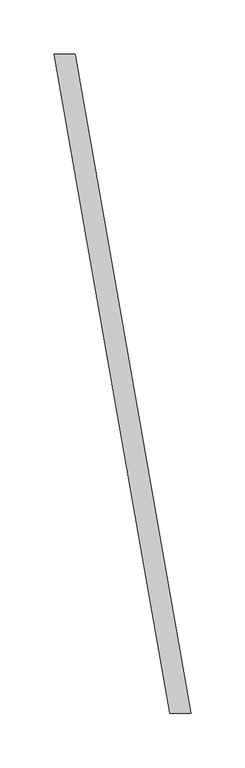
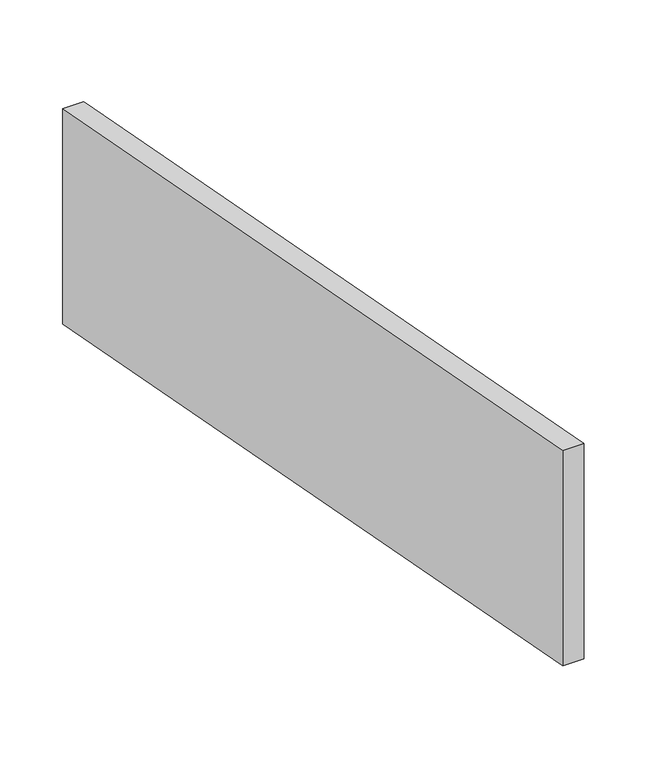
"""IFC4 building model written with IfcOpenShell, lengths in millimetres: proxy geometry, GRADIENT^TABLE 7_PYRAMID BASES-END BASE ACCESS."""

from ifc_helpers import new_model, si_unit, frame, origin, place, context, project, spatial, polyline, outline, extrude, source, transform, mapped, element, save


def generic_models_9ee26a7e(model_context):
    return source(origin(), model_context, "Body", "SweptSolid", [
        extrude(outline(polyline([(787.5671956, -101.6), (806.9110726, -101.6), (914.4, -711.2), (895.056123, -711.2), (787.5671956, -101.6)])), frame((0.0, 0.0, -866.775), z_axis=(0.0, 0.0, 1.0), x_axis=(1.0, 0.0, 0.0)), (0.0, 0.0, 1.0), 209.55),
    ])


if __name__ == "__main__":
    model = new_model("IFC4")
    model_context = context("Model", 3, world=origin())
    ifc_project = project(units=[si_unit("LENGTHUNIT", "METRE", prefix="MILLI")], contexts=[model_context])
    site = spatial("IfcSite", under=ifc_project)
    building = spatial("IfcBuilding", under=site)
    placement = place(None, origin())
    generic_models_shape = generic_models_9ee26a7e(model_context)
    element("IfcBuildingElementProxy", 1, Name="GRADIENT^TABLE 7_PYRAMID BASES-END BASE ACCESS", ObjectType="GRADIENT^TABLE 7_PYRAMID BASES-END BASE ACCESS", at=placement, inside=building, context=model_context, shape_type="MappedRepresentation", body=[
        mapped(generic_models_shape, transform((0.0, 0.0, 0.0), x_axis=(1.0, 0.0, 0.0), y_axis=(0.0, 1.0, 0.0), z_axis=(0.0, 0.0, 1.0))),
    ])
    save(model, "model.ifc")
